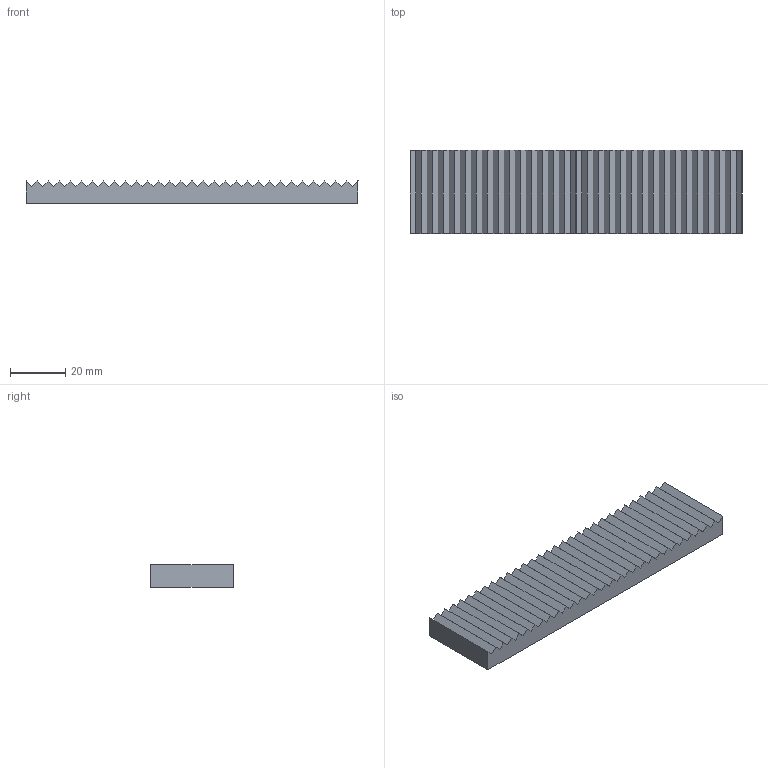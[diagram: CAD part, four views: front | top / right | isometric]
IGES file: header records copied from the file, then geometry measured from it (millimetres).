
Start section: 3D InterOp IGES (v. 2019 1.0.2), Spatial Corp. Copyright (c) 1999-2017.
Global section: file name: PD120308.igs; native system: Spatial Corp.; preprocessor: 3D InterOp GENERIC/IGES 3.0; author: Noname; organization: Noname; date: 20210211.094828; units: millimetre
Bounding box: 120 x 30 x 8 mm (x, y, z)
Surface area: 10851.2 mm2 (no closed solid volume)
Topology: 0 solids, 0 shells, 65 faces, 378 edges, 378 vertices
Faces by surface type: extrusion 65
